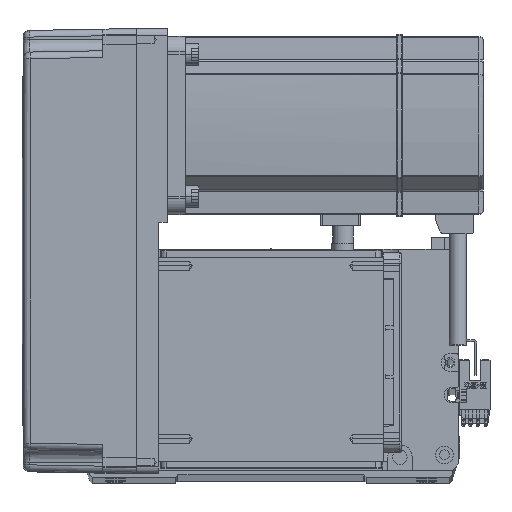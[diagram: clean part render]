
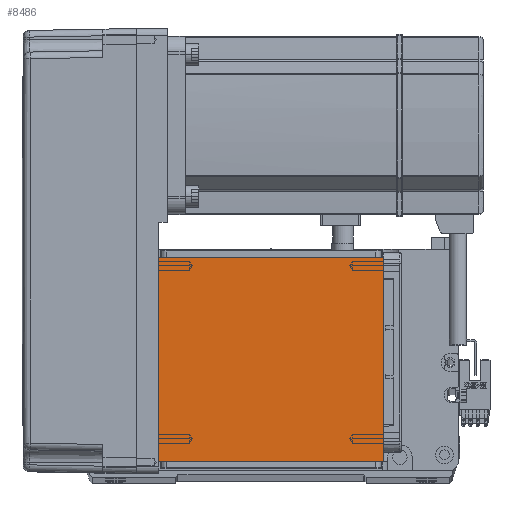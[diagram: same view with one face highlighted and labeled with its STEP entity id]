
A CAD part, top view. The second image highlights one B-rep face of the part: STEP entity #8486.
In plain terms, the highlighted planar face has unit normal (0, 0, 1).
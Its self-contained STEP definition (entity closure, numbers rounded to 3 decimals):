
#2046 = VECTOR ( 'NONE', #59224, 1000. ) ;
#4479 = CARTESIAN_POINT ( 'NONE',  ( -50.5, 111.5, 115. ) ) ;
#5124 = DIRECTION ( 'NONE',  ( 0., 1., 0. ) ) ;
#8486 = ADVANCED_FACE ( 'NONE', ( #16634 ), #22660, .T. ) ;
#9001 = CARTESIAN_POINT ( 'NONE',  ( 0., 0., 115. ) ) ;
#9213 = DIRECTION ( 'NONE',  ( 1., 0., 0. ) ) ;
#12222 = VECTOR ( 'NONE', #5124, 1000. ) ;
#12453 = CARTESIAN_POINT ( 'NONE',  ( -50.5, 20., 115. ) ) ;
#14384 = VECTOR ( 'NONE', #56682, 1000. ) ;
#15590 = CARTESIAN_POINT ( 'NONE',  ( -70.004, 20., 115. ) ) ;
#16168 = VECTOR ( 'NONE', #26797, 1000. ) ;
#16634 = FACE_OUTER_BOUND ( 'NONE', #39795, .T. ) ;
#17289 = LINE ( 'NONE', #28409, #12222 ) ;
#17594 = ORIENTED_EDGE ( 'NONE', *, *, #55221, .F. ) ;
#22364 = LINE ( 'NONE', #38477, #14384 ) ;
#22660 = PLANE ( 'NONE',  #31658 ) ;
#23343 = ORIENTED_EDGE ( 'NONE', *, *, #47381, .F. ) ;
#24918 = LINE ( 'NONE', #35716, #16168 ) ;
#26797 = DIRECTION ( 'NONE',  ( 1., 0., 0. ) ) ;
#26897 = VERTEX_POINT ( 'NONE', #56928 ) ;
#28409 = CARTESIAN_POINT ( 'NONE',  ( 50.5, 122., 115. ) ) ;
#28801 = EDGE_CURVE ( 'NONE', #38051, #26897, #17289, .T. ) ;
#31658 = AXIS2_PLACEMENT_3D ( 'NONE', #9001, #32265, #9213 ) ;
#32265 = DIRECTION ( 'NONE',  ( 0., 0., 1. ) ) ;
#33240 = CARTESIAN_POINT ( 'NONE',  ( 50.5, 20., 115. ) ) ;
#33698 = ORIENTED_EDGE ( 'NONE', *, *, #28801, .T. ) ;
#35716 = CARTESIAN_POINT ( 'NONE',  ( -70.004, 111.5, 115. ) ) ;
#36809 = VERTEX_POINT ( 'NONE', #12453 ) ;
#36881 = VERTEX_POINT ( 'NONE', #4479 ) ;
#38051 = VERTEX_POINT ( 'NONE', #33240 ) ;
#38477 = CARTESIAN_POINT ( 'NONE',  ( -50.5, 122., 115. ) ) ;
#39632 = ORIENTED_EDGE ( 'NONE', *, *, #51846, .T. ) ;
#39795 = EDGE_LOOP ( 'NONE', ( #17594, #39632, #23343, #33698 ) ) ;
#47381 = EDGE_CURVE ( 'NONE', #38051, #36809, #53902, .T. ) ;
#51846 = EDGE_CURVE ( 'NONE', #36881, #36809, #22364, .T. ) ;
#53902 = LINE ( 'NONE', #15590, #2046 ) ;
#55221 = EDGE_CURVE ( 'NONE', #36881, #26897, #24918, .T. ) ;
#56682 = DIRECTION ( 'NONE',  ( 0., -1., 0. ) ) ;
#56928 = CARTESIAN_POINT ( 'NONE',  ( 50.5, 111.5, 115. ) ) ;
#59224 = DIRECTION ( 'NONE',  ( -1., 0., 0. ) ) ;
